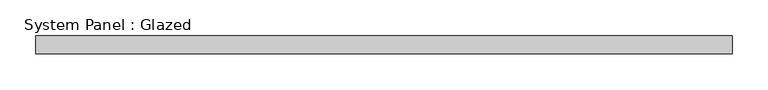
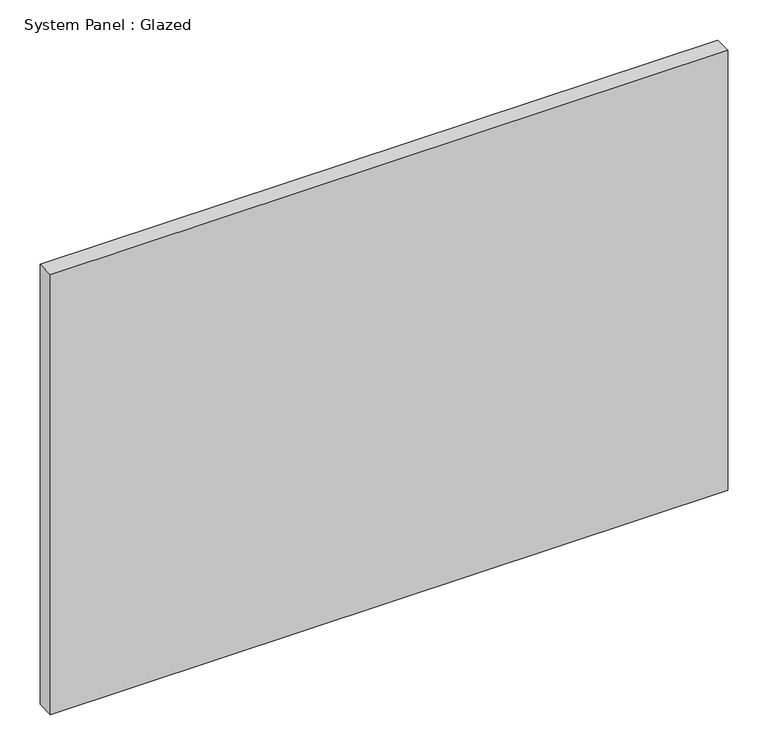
"""IFC4 building model written with IfcOpenShell, lengths in millimetres: plate geometry, System Panel : Glazed."""

from ifc_helpers import new_model, si_unit, origin, origin_with_axes, place, context, project, spatial, polyline, outline, extrude, source, transform, mapped, element, save


def system_panel_glazed_26e006e7(model_context):
    return source(origin(), model_context, "Body", "SweptSolid", [
        extrude(outline(polyline([(488.4208333, -44.45), (-488.4208333, -44.45), (-488.4208333, -19.05), (488.4208333, -19.05), (488.4208333, -44.45)])), origin_with_axes(), (0.0, 0.0, 1.0), 670.4526365),
    ])


if __name__ == "__main__":
    model = new_model("IFC4")
    model_context = context("Model", 3, world=origin())
    ifc_project = project(units=[si_unit("LENGTHUNIT", "METRE", prefix="MILLI")], contexts=[model_context])
    site = spatial("IfcSite", under=ifc_project)
    building = spatial("IfcBuilding", under=site)
    placement = place(None, origin())
    system_panel_glazed_shape = system_panel_glazed_26e006e7(model_context)
    element("IfcPlate", 1, ObjectType="System Panel : Glazed", at=placement, inside=building, context=model_context, shape_type="MappedRepresentation", body=[
        mapped(system_panel_glazed_shape, transform((0.0, 0.0, 0.0), x_axis=(1.0, 0.0, 0.0), y_axis=(0.0, 1.0, 0.0), z_axis=(0.0, 0.0, 1.0))),
    ])
    save(model, "model.ifc")
